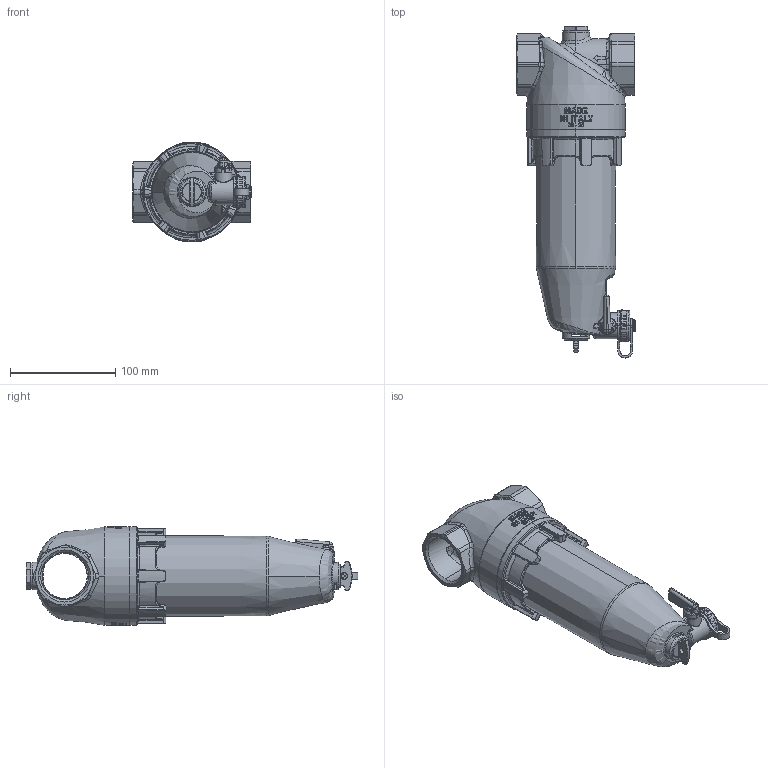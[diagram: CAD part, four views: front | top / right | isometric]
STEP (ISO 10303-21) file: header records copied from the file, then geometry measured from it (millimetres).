
FILE_DESCRIPTION (( 'STEP AP214' ), '1' );
FILE_NAME ('ADS182_Magnetyczny_separator_zanieczyszczen_7718200_0_3D_AFRISO.STEP', '2026-04-02T08:23:29', ( '' ), ( '' ), 'SwSTEP 2.0', 'SolidWorks 2024', '' );
FILE_SCHEMA (( 'AUTOMOTIVE_DESIGN' ));
Length unit declared in the file: millimetre
Products named in the file (1): ADS182_Magnetyczny_separator_zanieczyszczen_7718200_0_3D_AFRISO
Bounding box: 112.2 x 314.7 x 94.5 mm (x, y, z)
Surface area: 154855.2 mm2 (no closed solid volume)
Topology: 0 solids, 13 shells, 1030 faces, 3481 edges, 2315 vertices
Faces by surface type: bspline 499, cylinder 243, plane 205, cone 83
Entity records: 100642 total; most frequent: CARTESIAN_POINT 66063, ORIENTED_EDGE 5701, DIRECTION 3865, EDGE_CURVE 3470, VERTEX_POINT 2315, B_SPLINE_CURVE_WITH_KNOTS 1448, AXIS2_PLACEMENT_3D 1358, LINE 1149
